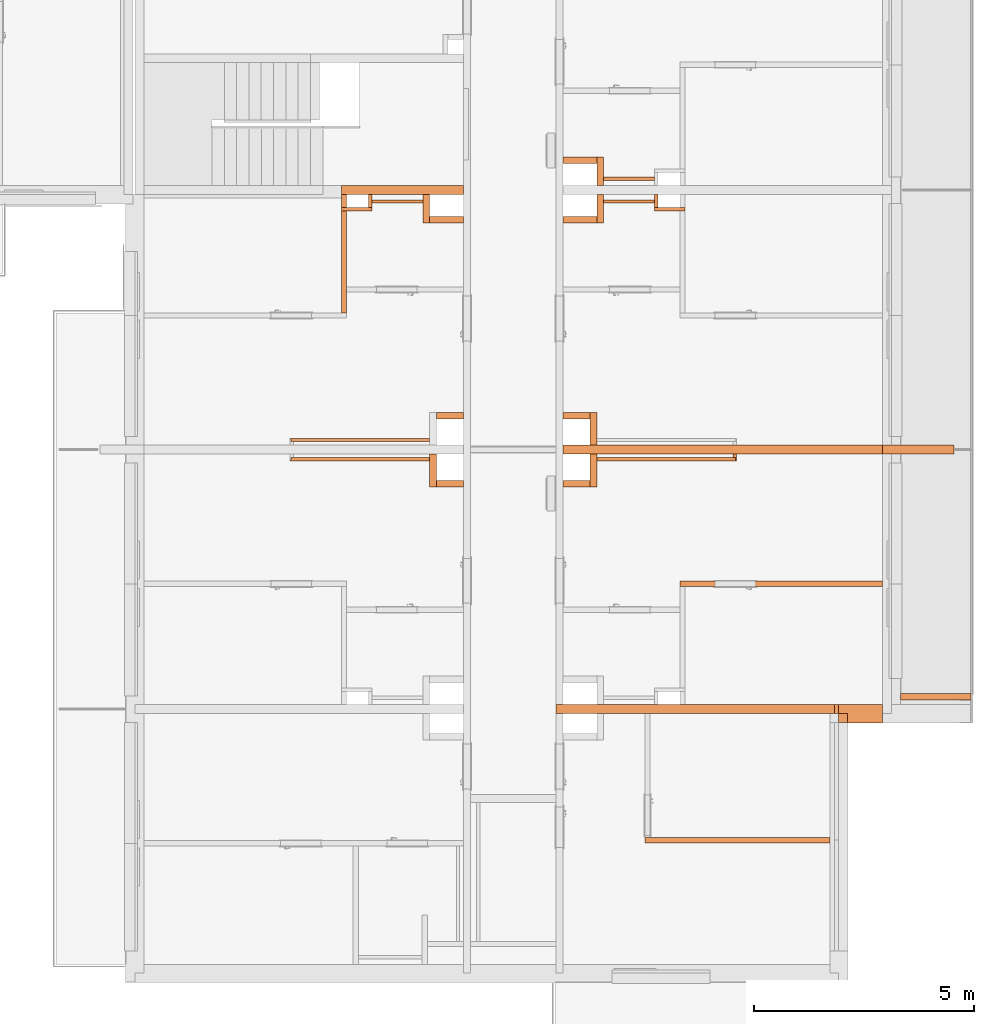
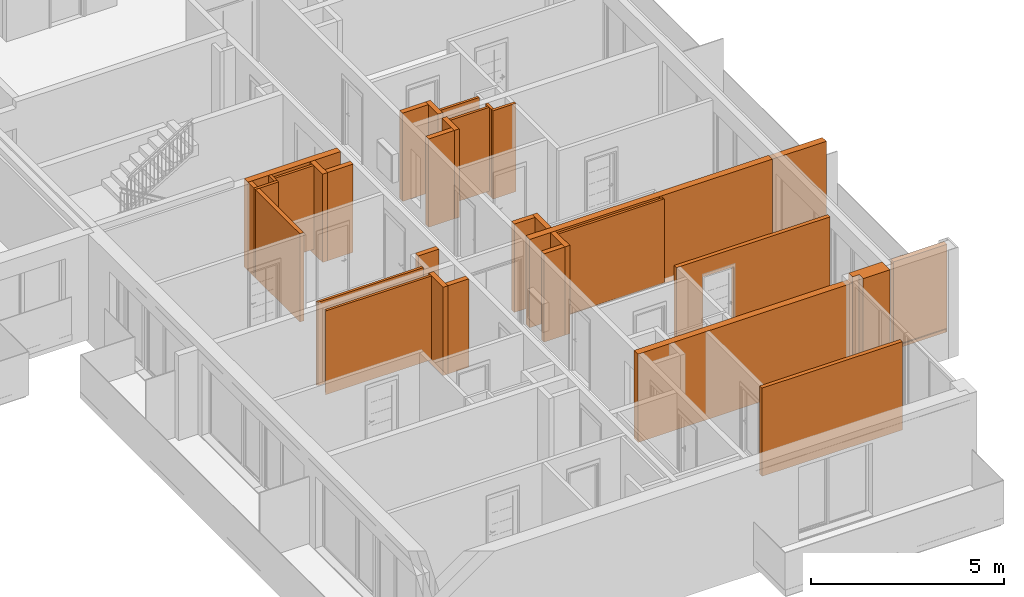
# One storey, part 65 of 67: 33 proxies, 1 opening.
"""IFC2X3 building model written with IfcOpenShell, lengths in millimetres."""

from ifc_helpers import new_model, entity, si_unit, converted_unit, derived_unit, money_unit, direction, frame, origin_with_axes, origin_2d_with_axis, place, context, subcontext, project, spatial, rectangle, extrude, faceted_brep, material, material_list, type_object, element, save


model = new_model("IFC2X3")

# Units and contexts
model_context = context("Model", 3, precision=0.01, world=origin_with_axes(), true_north=direction((0.34421633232, 0.938890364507)))
body_context = subcontext(model_context, "Body", "Model", "MODEL_VIEW")
ifc_project = project(units=[si_unit("LENGTHUNIT", "METRE", prefix="MILLI"), si_unit("AREAUNIT", "SQUARE_METRE"), si_unit("VOLUMEUNIT", "CUBIC_METRE"), converted_unit("PLANEANGLEUNIT", "DEGREE", entity("IfcPlaneAngleMeasure", 0.0174532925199), si_unit("PLANEANGLEUNIT", "RADIAN"), dimensions=[0, 0, 0, 0, 0, 0, 0]), si_unit("SOLIDANGLEUNIT", "STERADIAN"), money_unit("USD"), converted_unit("TIMEUNIT", "Year", entity("IfcTimeMeasure", 31556926.0), si_unit("TIMEUNIT", "SECOND"), dimensions=[0, 0, 1, 0, 0, 0, 0]), si_unit("MASSUNIT", "GRAM", prefix="KILO"), si_unit("THERMODYNAMICTEMPERATUREUNIT", "DEGREE_CELSIUS"), si_unit("LUMINOUSINTENSITYUNIT", "LUMEN"), si_unit("ENERGYUNIT", "JOULE", prefix="MEGA"), derived_unit("THERMALCONDUCTANCEUNIT", [(si_unit("POWERUNIT", "WATT"), 1), (si_unit("LENGTHUNIT", "METRE"), -1), (si_unit("THERMODYNAMICTEMPERATUREUNIT", "KELVIN"), -1)]), derived_unit("SPECIFICHEATCAPACITYUNIT", [(si_unit("ENERGYUNIT", "JOULE"), 1), (si_unit("MASSUNIT", "GRAM", prefix="KILO"), -1), (si_unit("THERMODYNAMICTEMPERATUREUNIT", "KELVIN"), -1)]), derived_unit("MASSDENSITYUNIT", [(si_unit("MASSUNIT", "GRAM", prefix="KILO"), 1), (si_unit("VOLUMEUNIT", "CUBIC_METRE"), -1)])], contexts=[model_context])

# Site, building, storey
site_placement = place(None, origin_with_axes())
site = spatial("IfcSite", under=ifc_project, at=site_placement, Name="USTRONIE MORSKIE", CompositionType="ELEMENT")
building_placement = place(site_placement, origin_with_axes())
building = spatial("IfcBuilding", under=site, at=building_placement, Name="Budynek", CompositionType="ELEMENT")
storey_placement = place(building_placement, frame((0.0, 0.0, 4000.0), z_axis=(0.0, 0.0, 1.0), x_axis=(1.0, 0.0, 0.0)))
storey = spatial("IfcBuildingStorey", under=building, at=storey_placement, Name="PIĘTRO 1", CompositionType="ELEMENT", Elevation=4000.0)

# Proxy, opening
ifc_material_1 = material(Name="Bloczki silikatowe")
building_element_proxy_type_1 = type_object("IfcBuildingElementProxyType", Name="Bloczki silikatowe 120", PredefinedType="NOTDEFINED")
proxy_1_placement = place(storey_placement, frame((420917.920919, 717951.218387, -160.0), z_axis=(0.0, 0.0, 1.0), x_axis=(1.0, 0.0, 0.0)))
proxy_1 = element("IfcBuildingElementProxy", 1, at=proxy_1_placement, inside=storey, type_object=building_element_proxy_type_1, material=ifc_material_1, Name="SW-04", context=body_context, shape_type="Brep", body=[
    faceted_brep([(4550.0, 59.9999999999, 0.0), (4550.0, -59.9999999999, 0.0), (-60.0, -59.9999999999, 0.0), (-60.0, 59.9999999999, 0.0), (4550.0, 59.9999999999, 2800.0), (4550.0, -59.9999999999, 2800.0), (-60.0, -59.9999999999, 2800.0), (-60.0, 59.9999999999, 2800.0)], [[[0, 1, 2, 3]], [[1, 0, 4, 5]], [[1, 5, 6, 2]], [[7, 3, 2, 6]], [[4, 0, 3, 7]], [[5, 4, 7, 6]]]),
])
opening_placement = place(proxy_1_placement, frame((1200.0, 0.0, 160.0), z_axis=(0.0, 0.0, 1.0), x_axis=(1.0, 0.0, 0.0)))
element("IfcOpeningElement", 2, at=opening_placement, cuts=proxy_1, Name="Dw.3", context=body_context, shape_type="SweptSolid", body=[
    extrude(rectangle(XDim=920.0, YDim=2070.0, at=origin_2d_with_axis()), frame((0.0, -120.0, 1035.0), z_axis=(0.0, 1.0, 0.0), x_axis=(-1.0, 0.0, 0.0)), (0.0, 0.0, 1.0), 360.0),
    extrude(rectangle(XDim=994.0, YDim=2177.0, at=origin_2d_with_axis()), frame((0.0, -59.9999999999, 1088.5), z_axis=(0.0, 1.0, 0.0), x_axis=(-1.0, 0.0, 0.0)), (0.0, 0.0, -1.0), 120.0),
    extrude(rectangle(XDim=994.0, YDim=2177.0, at=origin_2d_with_axis()), frame((0.0, 60.0000000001, 1088.5), z_axis=(0.0, -1.0, 0.0), x_axis=(-1.0, 0.0, 0.0)), (0.0, 0.0, -1.0), 120.0),
])

# Proxies
proxy_2_placement = place(storey_placement, frame((424267.920919, 712121.199036, -160.0), z_axis=(0.0, 0.0, 1.0), x_axis=(-1.0, 0.0, 0.0)))
element("IfcBuildingElementProxy", 3, at=proxy_2_placement, inside=storey, type_object=building_element_proxy_type_1, material=ifc_material_1, Name="SW-04", context=body_context, shape_type="Brep", body=[
    faceted_brep([(4210.0, -59.9999999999, 2800.0), (4210.0, 59.9999999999, 2800.0), (0.0, 59.9999999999, 2800.0), (0.0, -59.9999999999, 2800.0), (4210.0, -59.9999999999, 0.0), (4210.0, 59.9999999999, 0.0), (0.0, 59.9999999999, 0.0), (0.0, -59.9999999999, 0.0)], [[[0, 1, 2, 3]], [[1, 0, 4, 5]], [[1, 5, 6, 2]], [[7, 3, 2, 6]], [[4, 0, 3, 7]], [[5, 4, 7, 6]]]),
])
proxy_3_placement = place(storey_placement, frame((413217.920919, 726901.199036, -160.0), z_axis=(0.0, 0.0, 1.0), x_axis=(0.0, -1.0, 0.0)))
element("IfcBuildingElementProxy", 4, at=proxy_3_placement, inside=storey, type_object=building_element_proxy_type_1, material=ifc_material_1, Name="SW-04", context=body_context, shape_type="Brep", body=[
    faceted_brep([(400.01915523, -60.0, 2800.0), (400.01915523, 60.0, 2800.0), (99.9999999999, 60.0, 2800.0), (99.9999999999, -60.0, 2800.0), (400.01915523, -60.0, 0.0), (400.01915523, 60.0, 0.0), (99.9999999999, 60.0, 0.0), (99.9999999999, -60.0, 0.0)], [[[0, 1, 2, 3]], [[1, 0, 4, 5]], [[1, 5, 6, 2]], [[7, 3, 2, 6]], [[4, 0, 3, 7]], [[5, 4, 7, 6]]]),
    faceted_brep([(2790.01935038, -60.0, 2800.0), (2790.01935038, 60.0, 2800.0), (480.01915523, 60.0, 2800.0), (480.01915523, -60.0, 2800.0), (2790.01935038, -60.0, 0.0), (2790.01935038, 60.0, 0.0), (480.01915523, 60.0, 0.0), (480.01915523, -60.0, 0.0)], [[[0, 1, 2, 3]], [[1, 0, 4, 5]], [[1, 5, 6, 2]], [[7, 3, 2, 6]], [[4, 0, 3, 7]], [[5, 4, 7, 6]]]),
])
ifc_material_2 = material(Name="Beton konstrukcyjny B25")
ifc_material_3 = material(Name="Wełna ELEW")
ifc_material_4 = material(Name="Tynk zewnętrzny")
ifc_material_list_1 = material_list([ifc_material_2, ifc_material_3, ifc_material_4])
building_element_proxy_type_2 = type_object("IfcBuildingElementProxyType", Name="20+20 410", PredefinedType="NOTDEFINED")
proxy_4_placement = place(storey_placement, frame((424367.920919, 715101.199036, -600.0), z_axis=(0.0, 0.0, 1.0), x_axis=(1.0, 0.0, 0.0)))
element("IfcBuildingElementProxy", 5, at=proxy_4_placement, inside=storey, type_object=building_element_proxy_type_2, material=ifc_material_list_1, Name="SZ-01", context=body_context, shape_type="Brep", body=[
    faceted_brep([(100.0, 100.0, 240.0), (100.0, 100.0, 440.0), (100.0, 100.0, 3240.0), (100.0, 100.0, 3440.0), (1100.0, 99.9999999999, 3440.0), (1100.0, 99.9999999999, -1.039014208e-06), (0.0, 100.0, 0.0), (0.0, 100.0, 240.0), (100.0, -100.0, 240.0), (100.0, -100.0, 440.0), (100.0, -100.0, 3240.0), (100.0, -100.0, 3440.0), (1100.0, -100.0, 3440.0), (1100.0, -100.0, -1.039014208e-06), (0.0, -100.0, 0.0), (0.0, -100.0, 240.0)], [[[0, 1, 2, 3, 4, 5, 6, 7]], [[8, 9, 1, 0]], [[9, 10, 2, 1]], [[3, 2, 10, 11]], [[4, 3, 11, 12]], [[5, 4, 12, 13]], [[6, 5, 13, 14]], [[14, 15, 7, 6]], [[8, 0, 7, 15]], [[11, 10, 9, 8, 15, 14, 13, 12]]]),
    faceted_brep([(300.0, -100.0, 240.0), (300.0, -100.0, 3440.0), (1100.0, -100.0, 3440.0), (1100.0, -100.0, -1.039014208e-06), (100.0, -100.00000601, 0.0), (100.0, -100.00000601, 240.0), (300.0, -300.0, 240.0), (300.0, -300.0, 3440.0), (1100.0, -300.0, 3440.0), (1100.0, -300.0, -1.039014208e-06), (100.0, -300.0, 0.0), (100.0, -300.0, 240.0)], [[[0, 1, 2, 3, 4, 5]], [[1, 0, 6, 7]], [[2, 1, 7, 8]], [[3, 2, 8, 9]], [[9, 10, 4, 3]], [[10, 11, 5, 4]], [[6, 0, 5, 11]], [[7, 6, 11, 10, 9, 8]]]),
    faceted_brep([(310.0, -300.0, 440.0), (310.0, -300.0, 3240.0), (310.0, -300.0, 3440.0), (1100.0, -300.0, 3440.0), (1100.0, -300.0, 240.0), (1100.0, -300.0, -1.039014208e-06), (300.0, -300.000011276, 0.0), (300.0, -300.000011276, 240.0), (310.0, -300.0, 240.0), (310.0, -310.0, 3240.0), (310.0, -310.0, 440.0), (310.0, -310.0, 3440.0), (1100.0, -310.0, 3440.0), (1100.0, -310.0, 240.0), (1100.0, -310.0, -1.039014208e-06), (300.0, -310.0, 0.0), (300.0, -310.0, 240.0), (310.0, -310.0, 240.0)], [[[0, 1, 2, 3, 4, 5, 6, 7, 8]], [[9, 1, 0, 10]], [[1, 9, 11, 2]], [[2, 11, 12, 3]], [[4, 3, 12, 13]], [[4, 13, 14, 5]], [[15, 6, 5, 14]], [[16, 7, 6, 15]], [[8, 7, 16, 17]], [[10, 0, 8, 17]], [[9, 10, 17, 16, 15, 14, 13, 12, 11]]]),
])
ifc_material_5 = material(Name="Płyta GK")
ifc_material_6 = material(Name="-Pustka powietrzna")
ifc_material_list_2 = material_list([ifc_material_5, ifc_material_5, ifc_material_6])
building_element_proxy_type_3 = type_object("IfcBuildingElementProxyType", Name="330-SD GK 2-warstwy 75", PredefinedType="NOTDEFINED")
proxy_5_placement = place(storey_placement, frame((415317.920919, 720771.199036, -180.0), z_axis=(0.0, 0.0, 1.0), x_axis=(-1.0, 0.0, 0.0)))
element("IfcBuildingElementProxy", 6, at=proxy_5_placement, inside=storey, type_object=building_element_proxy_type_3, material=ifc_material_list_2, Name="Ściana-009", context=body_context, shape_type="Brep", body=[
    faceted_brep([(150.0, 25.0, 165.0), (150.0, 12.5, 165.0), (150.0, 12.5, 2820.0), (150.0, 25.0, 2820.0), (3325.0, 12.5, 165.0), (3325.0, 25.0, 165.0), (3325.0, 12.5, 2820.0), (3325.0, 25.0, 2820.0)], [[[0, 1, 2, 3]], [[4, 1, 0, 5]], [[1, 4, 6, 2]], [[7, 3, 2, 6]], [[5, 0, 3, 7]], [[4, 5, 7, 6]]]),
    faceted_brep([(150.0, 12.5, 165.0), (150.0, 0.0, 165.0), (150.0, 0.0, 2820.0), (150.0, 12.5, 2820.0), (3312.5, 0.0, 165.0), (3312.5, 12.5, 165.0), (3312.5, 0.0, 2820.0), (3312.5, 12.5, 2820.0)], [[[0, 1, 2, 3]], [[4, 1, 0, 5]], [[1, 4, 6, 2]], [[7, 3, 2, 6]], [[5, 0, 3, 7]], [[4, 5, 7, 6]]]),
    faceted_brep([(150.0, 0.0, 180.0), (150.0, -50.0, 180.0), (150.0, -50.0, 2820.0), (150.0, 0.0, 2820.0), (3300.0, -50.0, 180.0), (3300.0, 0.0, 180.0), (3300.0, -50.0, 2820.0), (3300.0, 0.0, 2820.0)], [[[0, 1, 2, 3]], [[4, 1, 0, 5]], [[1, 4, 6, 2]], [[7, 3, 2, 6]], [[5, 0, 3, 7]], [[4, 5, 7, 6]]]),
])
ifc_material_list_3 = material_list([ifc_material_6, ifc_material_5, ifc_material_5])
proxy_6_placement = place(storey_placement, frame((415317.920919, 721231.199036, -180.0), z_axis=(0.0, 0.0, 1.0), x_axis=(-1.0, 0.0, 0.0)))
element("IfcBuildingElementProxy", 7, at=proxy_6_placement, inside=storey, type_object=building_element_proxy_type_3, material=ifc_material_list_3, Name="Ściana-009", context=body_context, shape_type="Brep", body=[
    faceted_brep([(150.0, 50.0, 180.0), (150.0, 0.0, 180.0), (150.0, 0.0, 2820.0), (150.0, 50.0, 2820.0), (3300.0, 0.0, 180.0), (3300.0, 50.0, 180.0), (3300.0, 0.0, 2820.0), (3300.0, 50.0, 2820.0)], [[[0, 1, 2, 3]], [[4, 1, 0, 5]], [[1, 4, 6, 2]], [[7, 3, 2, 6]], [[5, 0, 3, 7]], [[4, 5, 7, 6]]]),
    faceted_brep([(150.0, 0.0, 165.0), (150.0, -12.5, 165.0), (150.0, -12.5, 2820.0), (150.0, 0.0, 2820.0), (3312.5, -12.5, 165.0), (3312.5, 0.0, 165.0), (3312.5, -12.5, 2820.0), (3312.5, 0.0, 2820.0)], [[[0, 1, 2, 3]], [[4, 1, 0, 5]], [[1, 4, 6, 2]], [[7, 3, 2, 6]], [[5, 0, 3, 7]], [[4, 5, 7, 6]]]),
    faceted_brep([(150.0, -12.5, 165.0), (150.0, -25.0, 165.0), (150.0, -25.0, 2820.0), (150.0, -12.5, 2820.0), (3325.0, -25.0, 165.0), (3325.0, -12.5, 165.0), (3325.0, -25.0, 2820.0), (3325.0, -12.5, 2820.0)], [[[0, 1, 2, 3]], [[4, 1, 0, 5]], [[1, 4, 6, 2]], [[7, 3, 2, 6]], [[5, 0, 3, 7]], [[4, 5, 7, 6]]]),
])
proxy_7_placement = place(storey_placement, frame((420317.920919, 726631.200807, -180.0), z_axis=(0.0, 0.0, 1.0), x_axis=(-1.0, 0.0, 0.0)))
element("IfcBuildingElementProxy", 8, at=proxy_7_placement, inside=storey, type_object=building_element_proxy_type_3, material=ifc_material_list_2, Name="Ściana-009", context=body_context, shape_type="Brep", body=[
    faceted_brep([(40.0, 25.0, 165.0), (40.0, 12.5, 165.0), (40.0, 12.5, 2820.0), (40.0, 25.0, 2820.0), (1199.99909883, 12.5, 165.0), (1199.99909883, 25.0, 165.0), (1199.99909883, 12.5, 2820.0), (1199.99909883, 25.0, 2820.0)], [[[0, 1, 2, 3]], [[4, 1, 0, 5]], [[1, 4, 6, 2]], [[2, 6, 7, 3]], [[5, 0, 3, 7]], [[4, 5, 7, 6]]]),
    faceted_brep([(40.0, 12.5, 165.0), (40.0, 0.0, 165.0), (40.0, 0.0, 2820.0), (40.0, 12.5, 2820.0), (1199.99909883, 0.0, 165.0), (1199.99909883, 12.5, 165.0), (1199.99909883, 0.0, 2820.0), (1199.99909883, 12.5, 2820.0)], [[[0, 1, 2, 3]], [[4, 1, 0, 5]], [[1, 4, 6, 2]], [[2, 6, 7, 3]], [[5, 0, 3, 7]], [[4, 5, 7, 6]]]),
    faceted_brep([(40.0, 0.0, 180.0), (40.0, -50.0, 180.0), (40.0, -50.0, 2820.0), (40.0, 0.0, 2820.0), (1199.99909883, -50.0, 180.0), (1199.99909883, 0.0, 180.0), (1199.99909883, -50.0, 2820.0), (1199.99909883, 0.0, 2820.0)], [[[0, 1, 2, 3]], [[4, 1, 0, 5]], [[1, 4, 6, 2]], [[2, 6, 7, 3]], [[5, 0, 3, 7]], [[4, 5, 7, 6]]]),
])
proxy_8_placement = place(storey_placement, frame((415092.920018, 726631.200807, -180.0), z_axis=(0.0, 0.0, 1.0), x_axis=(-1.0, 0.0, 0.0)))
element("IfcBuildingElementProxy", 9, at=proxy_8_placement, inside=storey, type_object=building_element_proxy_type_3, material=ifc_material_list_2, Name="Ściana-009", context=body_context, shape_type="Brep", body=[
    faceted_brep([(75.0, 25.0, 165.0), (75.0, 12.5, 165.0), (75.0, 12.5, 2820.0), (75.0, 25.0, 2820.0), (1234.99909883, 12.5, 165.0), (1234.99909883, 25.0, 165.0), (1234.99909883, 12.5, 2820.0), (1234.99909883, 25.0, 2820.0)], [[[0, 1, 2, 3]], [[4, 1, 0, 5]], [[1, 4, 6, 2]], [[7, 3, 2, 6]], [[5, 0, 3, 7]], [[4, 5, 7, 6]]]),
    faceted_brep([(75.0, 12.5, 165.0), (75.0, 0.0, 165.0), (75.0, 0.0, 2820.0), (75.0, 12.5, 2820.0), (1234.99909883, 0.0, 165.0), (1234.99909883, 12.5, 165.0), (1234.99909883, 0.0, 2820.0), (1234.99909883, 12.5, 2820.0)], [[[0, 1, 2, 3]], [[4, 1, 0, 5]], [[1, 4, 6, 2]], [[7, 3, 2, 6]], [[5, 0, 3, 7]], [[4, 5, 7, 6]]]),
    faceted_brep([(75.0, 0.0, 180.0), (75.0, -50.0, 180.0), (75.0, -50.0, 2820.0), (75.0, 0.0, 2820.0), (1234.99909883, -50.0, 180.0), (1234.99909883, 0.0, 180.0), (1234.99909883, -50.0, 2820.0), (1234.99909883, 0.0, 2820.0)], [[[0, 1, 2, 3]], [[4, 1, 0, 5]], [[1, 4, 6, 2]], [[7, 3, 2, 6]], [[5, 0, 3, 7]], [[4, 5, 7, 6]]]),
])
proxy_9_placement = place(storey_placement, frame((420317.920919, 727171.200737, -180.0), z_axis=(0.0, 0.0, 1.0), x_axis=(-1.0, 0.0, 0.0)))
element("IfcBuildingElementProxy", 10, at=proxy_9_placement, inside=storey, type_object=building_element_proxy_type_3, material=ifc_material_list_3, Name="Ściana-009", context=body_context, shape_type="Brep", body=[
    faceted_brep([(40.0, 50.0, 180.0), (40.0, 0.0, 180.0), (40.0, 0.0, 2820.0), (40.0, 50.0, 2820.0), (1199.99909883, 0.0, 180.0), (1199.99909883, 50.0, 180.0), (1199.99909883, 0.0, 2820.0), (1199.99909883, 50.0, 2820.0)], [[[0, 1, 2, 3]], [[4, 1, 0, 5]], [[1, 4, 6, 2]], [[2, 6, 7, 3]], [[5, 0, 3, 7]], [[4, 5, 7, 6]]]),
    faceted_brep([(40.0, 0.0, 165.0), (40.0, -12.5, 165.0), (40.0, -12.5, 2820.0), (40.0, 0.0, 2820.0), (1199.99909883, -12.5, 165.0), (1199.99909883, 0.0, 165.0), (1199.99909883, -12.5, 2820.0), (1199.99909883, 0.0, 2820.0)], [[[0, 1, 2, 3]], [[4, 1, 0, 5]], [[1, 4, 6, 2]], [[2, 6, 7, 3]], [[5, 0, 3, 7]], [[4, 5, 7, 6]]]),
    faceted_brep([(40.0, -12.5, 165.0), (40.0, -25.0, 165.0), (40.0, -25.0, 2820.0), (40.0, -12.5, 2820.0), (1199.99909883, -25.0, 165.0), (1199.99909883, -12.5, 165.0), (1199.99909883, -25.0, 2820.0), (1199.99909883, -12.5, 2820.0)], [[[0, 1, 2, 3]], [[4, 1, 0, 5]], [[1, 4, 6, 2]], [[2, 6, 7, 3]], [[5, 0, 3, 7]], [[4, 5, 7, 6]]]),
])
proxy_10_placement = place(storey_placement, frame((418817.920919, 720771.199036, -180.0), z_axis=(0.0, 0.0, 1.0), x_axis=(1.0, 0.0, 0.0)))
element("IfcBuildingElementProxy", 11, at=proxy_10_placement, inside=storey, type_object=building_element_proxy_type_3, material=ifc_material_list_3, Name="Ściana-009", context=body_context, shape_type="Brep", body=[
    faceted_brep([(3300.0, 0.0, 180.0), (3300.0, 50.0, 180.0), (3300.0, 50.0, 2820.0), (3300.0, 0.0, 2820.0), (150.0, 50.0, 180.0), (150.0, 0.0, 180.0), (150.0, 50.0, 2820.0), (150.0, 0.0, 2820.0)], [[[0, 1, 2, 3]], [[4, 1, 0, 5]], [[1, 4, 6, 2]], [[2, 6, 7, 3]], [[5, 0, 3, 7]], [[4, 5, 7, 6]]]),
    faceted_brep([(3312.5, -12.5, 165.0), (3312.5, 0.0, 165.0), (3312.5, 0.0, 2820.0), (3312.5, -12.5, 2820.0), (150.0, 0.0, 165.0), (150.0, -12.5, 165.0), (150.0, 0.0, 2820.0), (150.0, -12.5, 2820.0)], [[[0, 1, 2, 3]], [[4, 1, 0, 5]], [[1, 4, 6, 2]], [[2, 6, 7, 3]], [[5, 0, 3, 7]], [[4, 5, 7, 6]]]),
    faceted_brep([(3325.0, -25.0, 165.0), (3325.0, -12.5, 165.0), (3325.0, -12.5, 2820.0), (3325.0, -25.0, 2820.0), (150.0, -12.5, 165.0), (150.0, -25.0, 165.0), (150.0, -12.5, 2820.0), (150.0, -25.0, 2820.0)], [[[0, 1, 2, 3]], [[4, 1, 0, 5]], [[1, 4, 6, 2]], [[2, 6, 7, 3]], [[5, 0, 3, 7]], [[4, 5, 7, 6]]]),
])
proxy_11_placement = place(storey_placement, frame((422117.920919, 721001.199036, -180.0), z_axis=(0.0, 0.0, 1.0), x_axis=(0.0, -1.0, 0.0)))
element("IfcBuildingElementProxy", 12, at=proxy_11_placement, inside=storey, type_object=building_element_proxy_type_3, material=ifc_material_list_2, Name="Ściana-009", context=body_context, shape_type="Brep", body=[
    faceted_brep([(242.5, 25.0, 165.0), (100.0, 25.0, 165.0), (100.0, 25.0, 2820.0), (242.5, 25.0, 2820.0), (100.0, 12.5, 165.0), (242.5, 12.5, 165.0), (100.0, 12.5, 2820.0), (242.5, 12.5, 2820.0)], [[[0, 1, 2, 3]], [[4, 1, 0, 5]], [[1, 4, 6, 2]], [[3, 2, 6, 7]], [[5, 0, 3, 7]], [[4, 5, 7, 6]]]),
    faceted_brep([(230.0, 12.5, 165.0), (100.0, 12.5, 165.0), (100.0, 12.5, 2820.0), (230.0, 12.5, 2820.0), (100.0, 0.0, 165.0), (230.0, 0.0, 165.0), (100.0, 0.0, 2820.0), (230.0, 0.0, 2820.0)], [[[0, 1, 2, 3]], [[4, 1, 0, 5]], [[1, 4, 6, 2]], [[3, 2, 6, 7]], [[5, 0, 3, 7]], [[4, 5, 7, 6]]]),
    faceted_brep([(180.0, 0.0, 180.0), (100.0, 0.0, 180.0), (100.0, 0.0, 2820.0), (180.0, 0.0, 2820.0), (100.0, -50.0, 180.0), (180.0, -50.0, 180.0), (100.0, -50.0, 2820.0), (180.0, -50.0, 2820.0)], [[[0, 1, 2, 3]], [[4, 1, 0, 5]], [[1, 4, 6, 2]], [[3, 2, 6, 7]], [[5, 0, 3, 7]], [[4, 5, 7, 6]]]),
])
building_element_proxy_type_4 = type_object("IfcBuildingElementProxyType", Name="Bloczki silikatowe 80", PredefinedType="NOTDEFINED")
proxy_12_placement = place(storey_placement, frame((420317.920919, 726901.199036, -160.0), z_axis=(0.0, 0.0, 1.0), x_axis=(0.0, -1.0, 0.0)))
element("IfcBuildingElementProxy", 13, at=proxy_12_placement, inside=storey, type_object=building_element_proxy_type_4, material=ifc_material_1, Name="Ściana-010", context=body_context, shape_type="Brep", body=[
    faceted_brep([(400.01915523, 40.0, 0.0), (100.0, 40.0, 0.0), (100.0, 40.0, 2800.0), (400.01915523, 40.0, 2800.0), (400.01915523, -40.0, 0.0), (100.0, -40.0, 0.0), (100.0, -40.0, 2800.0), (400.01915523, -40.0, 2800.0)], [[[0, 1, 2, 3]], [[4, 5, 1, 0]], [[5, 6, 2, 1]], [[3, 2, 6, 7]], [[3, 7, 4, 0]], [[7, 6, 5, 4]]]),
])
proxy_13_placement = place(storey_placement, frame((413217.920919, 726461.179881, -160.0), z_axis=(0.0, 0.0, 1.0), x_axis=(1.0, 0.0, 0.0)))
element("IfcBuildingElementProxy", 14, at=proxy_13_placement, inside=storey, type_object=building_element_proxy_type_4, material=ifc_material_1, Name="Ściana-009", context=body_context, shape_type="Brep", body=[
    faceted_brep([(640.0, -40.0, 2800.0), (640.0, 40.0, 2800.0), (-60.0, 40.0, 2800.0), (-60.0, -40.0, 2800.0), (640.0, -40.0, 0.0), (640.0, 40.0, 0.0), (-60.0, 40.0, 0.0), (-60.0, -40.0, 0.0)], [[[0, 1, 2, 3]], [[1, 0, 4, 5]], [[1, 5, 6, 2]], [[7, 3, 2, 6]], [[4, 0, 3, 7]], [[5, 4, 7, 6]]]),
])
proxy_14_placement = place(storey_placement, frame((420917.920919, 726461.179881, -160.0), z_axis=(0.0, 0.0, 1.0), x_axis=(-1.0, 0.0, 0.0)))
element("IfcBuildingElementProxy", 15, at=proxy_14_placement, inside=storey, type_object=building_element_proxy_type_4, material=ifc_material_1, Name="Ściana-009", context=body_context, shape_type="Brep", body=[
    faceted_brep([(640.0, 40.0, 0.0), (640.0, -40.0, 0.0), (-60.0, -40.0, 0.0), (-60.0, 40.0, 0.0), (640.0, 40.0, 2800.0), (640.0, -40.0, 2800.0), (-60.0, -40.0, 2800.0), (-60.0, 40.0, 2800.0)], [[[0, 1, 2, 3]], [[1, 0, 4, 5]], [[1, 5, 6, 2]], [[7, 3, 2, 6]], [[4, 0, 3, 7]], [[5, 4, 7, 6]]]),
])
proxy_15_placement = place(storey_placement, frame((413817.920919, 726901.199036, -160.0), z_axis=(0.0, 0.0, 1.0), x_axis=(0.0, -1.0, 0.0)))
element("IfcBuildingElementProxy", 16, at=proxy_15_placement, inside=storey, type_object=building_element_proxy_type_4, material=ifc_material_1, Name="Ściana-010", context=body_context, shape_type="Brep", body=[
    faceted_brep([(400.01915523, -40.0, 2800.0), (400.01915523, 40.0, 2800.0), (100.0, 40.0, 2800.0), (100.0, -40.0, 2800.0), (400.01915523, -40.0, 0.0), (400.01915523, 40.0, 0.0), (100.0, 40.0, 0.0), (100.0, -40.0, 0.0)], [[[0, 1, 2, 3]], [[1, 0, 4, 5]], [[1, 5, 6, 2]], [[7, 3, 2, 6]], [[4, 0, 3, 7]], [[5, 4, 7, 6]]]),
])
building_element_proxy_type_5 = type_object("IfcBuildingElementProxyType", Name="Bloczki silikatowe 150", PredefinedType="NOTDEFINED")
proxy_16_placement = place(storey_placement, frame((415092.920018, 726226.198161, -160.0), z_axis=(0.0, 0.0, 1.0), x_axis=(1.0, 0.0, 0.0)))
element("IfcBuildingElementProxy", 17, at=proxy_16_placement, inside=storey, type_object=building_element_proxy_type_5, material=ifc_material_1, Name="Ściana-009", context=body_context, shape_type="Brep", body=[
    faceted_brep([(845.00090117, -75.0, 2800.0), (845.00090117, 75.0, 2800.0), (75.0, 75.0, 2800.0), (75.0, -75.0, 2800.0), (845.00090117, -75.0, 0.0), (845.00090117, 75.0, 0.0), (75.0, 75.0, 0.0), (75.0, -75.0, 0.0)], [[[0, 1, 2, 3]], [[1, 0, 4, 5]], [[1, 5, 6, 2]], [[7, 3, 2, 6]], [[4, 0, 3, 7]], [[5, 4, 7, 6]]]),
])
proxy_17_placement = place(storey_placement, frame((418817.920919, 720301.199036, -160.0), z_axis=(0.0, 0.0, 1.0), x_axis=(-1.0, 0.0, 0.0)))
element("IfcBuildingElementProxy", 18, at=proxy_17_placement, inside=storey, type_object=building_element_proxy_type_5, material=ifc_material_1, Name="SW-03", context=body_context, shape_type="Brep", body=[
    faceted_brep([(620.0, 150.0, 0.0), (620.0, 0.0, 0.0), (0.0, 0.0, 0.0), (0.0, 150.0, 0.0), (620.0, 150.0, 2800.0), (620.0, 0.0, 2800.0), (0.0, 0.0, 2800.0), (0.0, 150.0, 2800.0)], [[[0, 1, 2, 3]], [[1, 0, 4, 5]], [[1, 5, 6, 2]], [[7, 3, 2, 6]], [[4, 0, 3, 7]], [[5, 4, 7, 6]]]),
])
proxy_18_placement = place(storey_placement, frame((415092.920018, 726901.199039, -160.0), z_axis=(0.0, 0.0, 1.0), x_axis=(0.0, -1.0, 0.0)))
element("IfcBuildingElementProxy", 19, at=proxy_18_placement, inside=storey, type_object=building_element_proxy_type_5, material=ifc_material_1, Name="Ściana-009", context=body_context, shape_type="Brep", body=[
    faceted_brep([(750.000877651, -75.0, 2800.0), (750.000877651, 75.0, 2800.0), (100.000002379, 75.0, 2800.0), (100.000002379, -75.0, 2800.0), (750.000877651, -75.0, 0.0), (750.000877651, 75.0, 0.0), (100.000002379, 75.0, 0.0), (100.000002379, -75.0, 0.0)], [[[0, 1, 2, 3]], [[1, 0, 4, 5]], [[1, 5, 6, 2]], [[7, 3, 2, 6]], [[4, 0, 3, 7]], [[5, 4, 7, 6]]]),
])
proxy_19_placement = place(storey_placement, frame((419042.92182, 727576.199918, -160.0), z_axis=(0.0, 0.0, 1.0), x_axis=(-1.0, 0.0, 0.0)))
element("IfcBuildingElementProxy", 20, at=proxy_19_placement, inside=storey, type_object=building_element_proxy_type_5, material=ifc_material_1, Name="Ściana-009", context=body_context, shape_type="Brep", body=[
    faceted_brep([(845.00090117, -75.0, 2800.0), (845.00090117, 75.0, 2800.0), (75.0, 75.0, 2800.0), (75.0, -75.0, 2800.0), (845.00090117, -75.0, 0.0), (845.00090117, 75.0, 0.0), (75.0, 75.0, 0.0), (75.0, -75.0, 0.0)], [[[0, 1, 2, 3]], [[1, 0, 4, 5]], [[1, 5, 6, 2]], [[7, 3, 2, 6]], [[4, 0, 3, 7]], [[5, 4, 7, 6]]]),
])
proxy_20_placement = place(storey_placement, frame((419042.92182, 726901.199039, -160.0), z_axis=(0.0, 0.0, 1.0), x_axis=(0.0, 1.0, 0.0)))
element("IfcBuildingElementProxy", 21, at=proxy_20_placement, inside=storey, type_object=building_element_proxy_type_5, material=ifc_material_1, Name="Ściana-009", context=body_context, shape_type="Brep", body=[
    faceted_brep([(750.000879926, -75.0, 2800.0), (750.000879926, 75.0, 2800.0), (99.9999976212, 75.0, 2800.0), (99.9999976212, -75.0, 2800.0), (750.000879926, -75.0, 0.0), (750.000879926, 75.0, 0.0), (99.9999976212, 75.0, 0.0), (99.9999976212, -75.0, 0.0)], [[[0, 1, 2, 3]], [[1, 0, 4, 5]], [[1, 5, 6, 2]], [[7, 3, 2, 6]], [[4, 0, 3, 7]], [[5, 4, 7, 6]]]),
])
proxy_21_placement = place(storey_placement, frame((415317.920919, 721001.199074, -160.0), z_axis=(0.0, 0.0, 1.0), x_axis=(0.0, -1.0, 0.0)))
element("IfcBuildingElementProxy", 22, at=proxy_21_placement, inside=storey, type_object=building_element_proxy_type_5, material=ifc_material_1, Name="SW-03", context=body_context, shape_type="Brep", body=[
    faceted_brep([(850.000037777, 0.0, 0.0), (100.000037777, 0.0, 0.0), (100.000037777, 0.0, 2800.0), (850.000037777, 0.0, 2800.0), (850.000037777, -150.0, 0.0), (100.000037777, -150.0, 0.0), (100.000037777, -150.0, 2800.0), (850.000037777, -150.0, 2800.0)], [[[0, 1, 2, 3]], [[4, 5, 1, 0]], [[5, 6, 2, 1]], [[3, 2, 6, 7]], [[4, 0, 3, 7]], [[7, 6, 5, 4]]]),
])
proxy_22_placement = place(storey_placement, frame((418817.920919, 721701.199036, -160.0), z_axis=(0.0, 0.0, 1.0), x_axis=(-1.0, 0.0, 0.0)))
element("IfcBuildingElementProxy", 23, at=proxy_22_placement, inside=storey, type_object=building_element_proxy_type_5, material=ifc_material_1, Name="SW-03", context=body_context, shape_type="Brep", body=[
    faceted_brep([(620.0, -150.0, 2800.0), (620.0, 0.0, 2800.0), (0.0, 0.0, 2800.0), (0.0, -150.0, 2800.0), (620.0, -150.0, 0.0), (620.0, 0.0, 0.0), (0.0, 0.0, 0.0), (0.0, -150.0, 0.0)], [[[0, 1, 2, 3]], [[1, 0, 4, 5]], [[1, 5, 6, 2]], [[7, 3, 2, 6]], [[4, 0, 3, 7]], [[5, 4, 7, 6]]]),
])
proxy_23_placement = place(storey_placement, frame((415317.920919, 721701.199036, -160.0), z_axis=(0.0, 0.0, 1.0), x_axis=(1.0, 0.0, 0.0)))
element("IfcBuildingElementProxy", 24, at=proxy_23_placement, inside=storey, type_object=building_element_proxy_type_5, material=ifc_material_1, Name="SW-03", context=body_context, shape_type="Brep", body=[
    faceted_brep([(620.0, 150.0, 0.0), (620.0, 0.0, 0.0), (0.0, 0.0, 0.0), (0.0, 150.0, 0.0), (620.0, 150.0, 2800.0), (620.0, 0.0, 2800.0), (0.0, 0.0, 2800.0), (0.0, 150.0, 2800.0)], [[[0, 1, 2, 3]], [[1, 0, 4, 5]], [[1, 5, 6, 2]], [[7, 3, 2, 6]], [[4, 0, 3, 7]], [[5, 4, 7, 6]]]),
])
proxy_24_placement = place(storey_placement, frame((415317.920919, 720301.199036, -160.0), z_axis=(0.0, 0.0, 1.0), x_axis=(1.0, 0.0, 0.0)))
element("IfcBuildingElementProxy", 25, at=proxy_24_placement, inside=storey, type_object=building_element_proxy_type_5, material=ifc_material_1, Name="SW-03", context=body_context, shape_type="Brep", body=[
    faceted_brep([(620.0, -150.0, 2800.0), (620.0, 0.0, 2800.0), (0.0, 0.0, 2800.0), (0.0, -150.0, 2800.0), (620.0, -150.0, 0.0), (620.0, 0.0, 0.0), (0.0, 0.0, 0.0), (0.0, -150.0, 0.0)], [[[0, 1, 2, 3]], [[1, 0, 4, 5]], [[1, 5, 6, 2]], [[7, 3, 2, 6]], [[4, 0, 3, 7]], [[5, 4, 7, 6]]]),
])
proxy_25_placement = place(storey_placement, frame((419042.92182, 726901.199039, -160.0), z_axis=(0.0, 0.0, 1.0), x_axis=(0.0, -1.0, 0.0)))
element("IfcBuildingElementProxy", 26, at=proxy_25_placement, inside=storey, type_object=building_element_proxy_type_5, material=ifc_material_1, Name="Ściana-009", context=body_context, shape_type="Brep", body=[
    faceted_brep([(750.000877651, 75.0, 0.0), (100.000002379, 75.0, 0.0), (100.000002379, 75.0, 2800.0), (750.000877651, 75.0, 2800.0), (750.000877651, -75.0, 0.0), (100.000002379, -75.0, 0.0), (100.000002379, -75.0, 2800.0), (750.000877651, -75.0, 2800.0)], [[[0, 1, 2, 3]], [[4, 5, 1, 0]], [[5, 6, 2, 1]], [[3, 2, 6, 7]], [[3, 7, 4, 0]], [[7, 6, 5, 4]]]),
])
proxy_26_placement = place(storey_placement, frame((418817.920919, 721001.199074, -160.0), z_axis=(0.0, 0.0, 1.0), x_axis=(0.0, -1.0, 0.0)))
element("IfcBuildingElementProxy", 27, at=proxy_26_placement, inside=storey, type_object=building_element_proxy_type_5, material=ifc_material_1, Name="SW-03", context=body_context, shape_type="Brep", body=[
    faceted_brep([(850.000037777, 150.0, 0.0), (100.000037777, 150.0, 0.0), (100.000037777, 150.0, 2800.0), (850.000037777, 150.0, 2800.0), (850.000037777, 0.0, 0.0), (100.000037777, 0.0, 0.0), (100.000037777, 0.0, 2800.0), (850.000037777, 0.0, 2800.0)], [[[0, 1, 2, 3]], [[4, 5, 1, 0]], [[5, 6, 2, 1]], [[3, 2, 6, 7]], [[3, 7, 4, 0]], [[7, 6, 5, 4]]]),
])
proxy_27_placement = place(storey_placement, frame((418817.920919, 721001.198998, -160.0), z_axis=(0.0, 0.0, 1.0), x_axis=(0.0, 1.0, 0.0)))
element("IfcBuildingElementProxy", 28, at=proxy_27_placement, inside=storey, type_object=building_element_proxy_type_5, material=ifc_material_1, Name="SW-03", context=body_context, shape_type="Brep", body=[
    faceted_brep([(850.000037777, -150.0, 2800.0), (850.000037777, 0.0, 2800.0), (100.000037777, 0.0, 2800.0), (100.000037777, -150.0, 2800.0), (850.000037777, -150.0, 0.0), (850.000037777, 0.0, 0.0), (100.000037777, 0.0, 0.0), (100.000037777, -150.0, 0.0)], [[[0, 1, 2, 3]], [[1, 0, 4, 5]], [[1, 5, 6, 2]], [[7, 3, 2, 6]], [[4, 0, 3, 7]], [[5, 4, 7, 6]]]),
])
proxy_28_placement = place(storey_placement, frame((419042.92182, 726226.198161, -160.0), z_axis=(0.0, 0.0, 1.0), x_axis=(-1.0, 0.0, 0.0)))
element("IfcBuildingElementProxy", 29, at=proxy_28_placement, inside=storey, type_object=building_element_proxy_type_5, material=ifc_material_1, Name="Ściana-009", context=body_context, shape_type="Brep", body=[
    faceted_brep([(845.00090117, 75.0, 0.0), (845.00090117, -75.0, 0.0), (75.0, -75.0, 0.0), (75.0, 75.0, 0.0), (845.00090117, 75.0, 2800.0), (845.00090117, -75.0, 2800.0), (75.0, -75.0, 2800.0), (75.0, 75.0, 2800.0)], [[[0, 1, 2, 3]], [[1, 0, 4, 5]], [[1, 5, 6, 2]], [[7, 3, 2, 6]], [[4, 0, 3, 7]], [[5, 4, 7, 6]]]),
])
building_element_proxy_type_6 = type_object("IfcBuildingElementProxyType", Name="Beton konstrukcyjny B25 200", PredefinedType="NOTDEFINED")
proxy_29_placement = place(storey_placement, frame((424367.920919, 715101.199036, -160.0), z_axis=(0.0, 0.0, 1.0), x_axis=(-1.0, 0.0, 0.0)))
element("IfcBuildingElementProxy", 30, at=proxy_29_placement, inside=storey, type_object=building_element_proxy_type_6, material=ifc_material_2, Name="SW-01", context=body_context, shape_type="Brep", body=[
    faceted_brep([(-100.0, -100.0, 2800.0), (6330.025, -100.0, 2800.0), (6330.025, 100.0, 2800.0), (-100.0, 100.0, 2800.0), (-100.0, -100.0, 0.0), (6330.025, -100.0, 0.0), (6330.025, 100.0, 0.0), (-100.0, 100.0, 0.0)], [[[0, 1, 2, 3]], [[4, 5, 1, 0]], [[6, 2, 1, 5]], [[3, 2, 6, 7]], [[7, 4, 0, 3]], [[7, 6, 5, 4]]]),
])
proxy_30_placement = place(storey_placement, frame((425567.920919, 721001.199036, -160.0), z_axis=(0.0, 0.0, 1.0), x_axis=(-1.0, 0.0, 0.0)))
element("IfcBuildingElementProxy", 31, at=proxy_30_placement, inside=storey, type_object=building_element_proxy_type_6, material=ifc_material_2, Name="SW-01", context=body_context, shape_type="Brep", body=[
    faceted_brep([(100.0, -100.0, 0.0), (7370.0, -100.0, 0.0), (7370.0, -100.0, 2800.0), (100.0, -100.0, 2800.0), (100.0, 100.0, 0.0), (7370.0, 100.0, 0.0), (7370.0, 100.0, 2800.0), (100.0, 100.0, 2800.0)], [[[0, 1, 2, 3]], [[4, 5, 1, 0]], [[5, 6, 2, 1]], [[3, 2, 6, 7]], [[4, 0, 3, 7]], [[7, 6, 5, 4]]]),
])
proxy_31_placement = place(storey_placement, frame((425567.920919, 721001.199036, -160.0), z_axis=(0.0, 0.0, 1.0), x_axis=(1.0, 0.0, 0.0)))
element("IfcBuildingElementProxy", 32, at=proxy_31_placement, inside=storey, type_object=building_element_proxy_type_6, material=ifc_material_2, Name="SW-01", context=body_context, shape_type="Brep", body=[
    faceted_brep([(1520.0, -100.0, 0.0), (-100.0, -100.0, 0.0), (-100.0, 100.0, 0.0), (1520.0, 100.0, 0.0), (1520.0, -100.0, 2800.0), (-100.0, -100.0, 2800.0), (-100.0, 100.0, 2800.0), (1520.0, 100.0, 2800.0)], [[[0, 1, 2, 3]], [[4, 5, 1, 0]], [[1, 5, 6, 2]], [[3, 2, 6, 7]], [[7, 4, 0, 3]], [[7, 6, 5, 4]]]),
])
proxy_32_placement = place(storey_placement, frame((413157.920919, 726901.199036, -160.0), z_axis=(0.0, 0.0, 1.0), x_axis=(1.0, 0.0, 0.0)))
element("IfcBuildingElementProxy", 33, at=proxy_32_placement, inside=storey, type_object=building_element_proxy_type_6, material=ifc_material_2, Name="SW-01", context=body_context, shape_type="Brep", body=[
    faceted_brep([(0.0, 100.0, 0.0), (0.0, 100.0, 2800.0), (2780.0, 100.0, 2800.0), (2780.0, 100.0, 0.0), (0.0, -100.0, 0.0), (0.0, -100.0, 2800.0), (2780.0, -100.0, 2800.0), (2780.0, -100.0, 0.0)], [[[0, 1, 2, 3]], [[4, 5, 1, 0]], [[2, 1, 5, 6]], [[6, 7, 3, 2]], [[4, 0, 3, 7]], [[6, 5, 4, 7]]]),
])
ifc_material_7 = material(Name="Laminat")
building_element_proxy_type_7 = type_object("IfcBuildingElementProxyType", Name="Laminat 150", PredefinedType="NOTDEFINED")
proxy_33_placement = place(storey_placement, frame((425877.921003, 715386.199036, -160.0), z_axis=(0.0, 0.0, 1.0), x_axis=(1.0, 0.0, 0.0)))
element("IfcBuildingElementProxy", 34, at=proxy_33_placement, inside=storey, type_object=building_element_proxy_type_7, material=ifc_material_7, context=body_context, shape_type="Brep", body=[
    faceted_brep([(0.0, 75.0, 10.0000049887), (0.0, -75.0, 10.0000049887), (0.0, -75.0, 2789.99999183), (0.0, 75.0, 2789.99999183), (1600.03040031, -75.0, 9.99998839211), (1600.03040031, 75.0, 9.99998839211), (1600.03040031, -75.0, 2789.99999183), (1564.9998184, -75.0000050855, 104.999998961), (4.99981840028, -75.0000006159, 104.999998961), (4.99981840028, -75.0000006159, 129.999998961), (1589.9998184, -75.0000051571, 129.999998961), (1589.9998184, -75.0000051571, 14.999998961), (1564.9998184, -75.0000050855, 14.999998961), (1600.03040031, 75.0, 2789.99999183), (1564.99981883, 75.0, 104.999998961), (1564.99981883, 75.0, 14.999998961), (1589.99981883, 75.0, 14.999998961), (1589.99981883, 75.0, 129.999998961), (4.99981883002, 75.0, 129.999998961), (4.99981883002, 75.0, 104.999998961)], [[[0, 1, 2, 3]], [[4, 1, 0, 5]], [[6, 2, 1, 4], [7, 8, 9, 10, 11, 12]], [[13, 3, 2, 6]], [[5, 0, 3, 13], [14, 15, 16, 17, 18, 19]], [[13, 6, 4, 5]], [[14, 19, 8, 7]], [[18, 9, 8, 19]], [[17, 10, 9, 18]], [[16, 11, 10, 17]], [[15, 12, 11, 16]], [[14, 7, 12, 15]]]),
])

save(model, "model.ifc")
